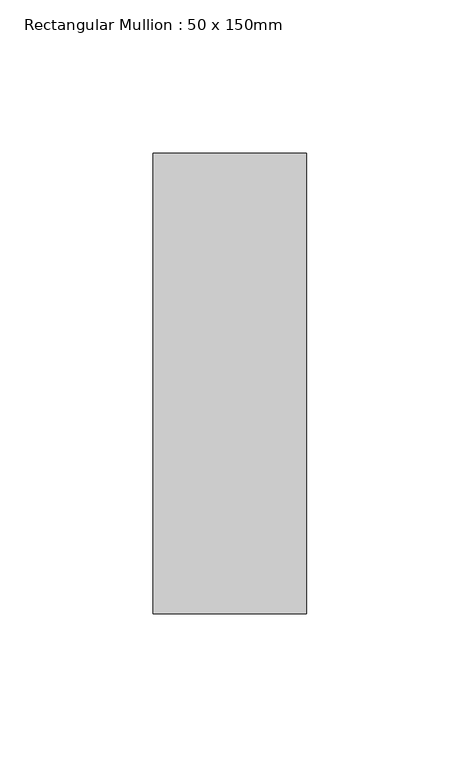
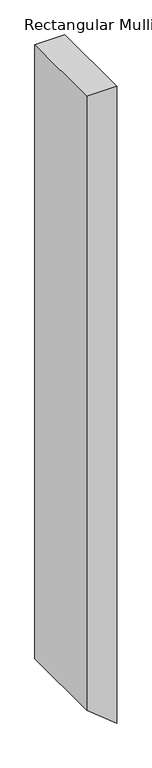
"""IFC4 building model written with IfcOpenShell, lengths in millimetres: member geometry, Rectangular Mullion : 50 x 150mm."""

from ifc_helpers import new_model, si_unit, frame, origin, place, context, project, spatial, polyline, outline, extrude, source, transform, mapped, element, save


def rectangular_mullion_50_x_150mm_c65e338b(model_context):
    return source(origin(), model_context, "Body", "SweptSolid", [
        extrude(outline(polyline([(0.0, 0.0), (0.0, -50.0), (-1084.430855, -50.0), (-1124.8692306, 0.0), (0.0, 0.0)])), frame((0.0, -75.0, 0.0), z_axis=(0.0, 1.0, 0.0), x_axis=(0.0, 0.0, 1.0)), (0.0, 0.0, 1.0), 150.0),
    ])


if __name__ == "__main__":
    model = new_model("IFC4")
    model_context = context("Model", 3, world=origin())
    ifc_project = project(units=[si_unit("LENGTHUNIT", "METRE", prefix="MILLI")], contexts=[model_context])
    site = spatial("IfcSite", under=ifc_project)
    building = spatial("IfcBuilding", under=site)
    placement = place(None, origin())
    rectangular_mullion_50_x_150mm_shape = rectangular_mullion_50_x_150mm_c65e338b(model_context)
    element("IfcMember", 1, ObjectType="Rectangular Mullion : 50 x 150mm", at=placement, inside=building, context=model_context, shape_type="MappedRepresentation", body=[
        mapped(rectangular_mullion_50_x_150mm_shape, transform((0.0, 0.0, 0.0), x_axis=(1.0, 0.0, 0.0), y_axis=(0.0, 1.0, 0.0), z_axis=(0.0, 0.0, 1.0))),
    ])
    save(model, "model.ifc")
